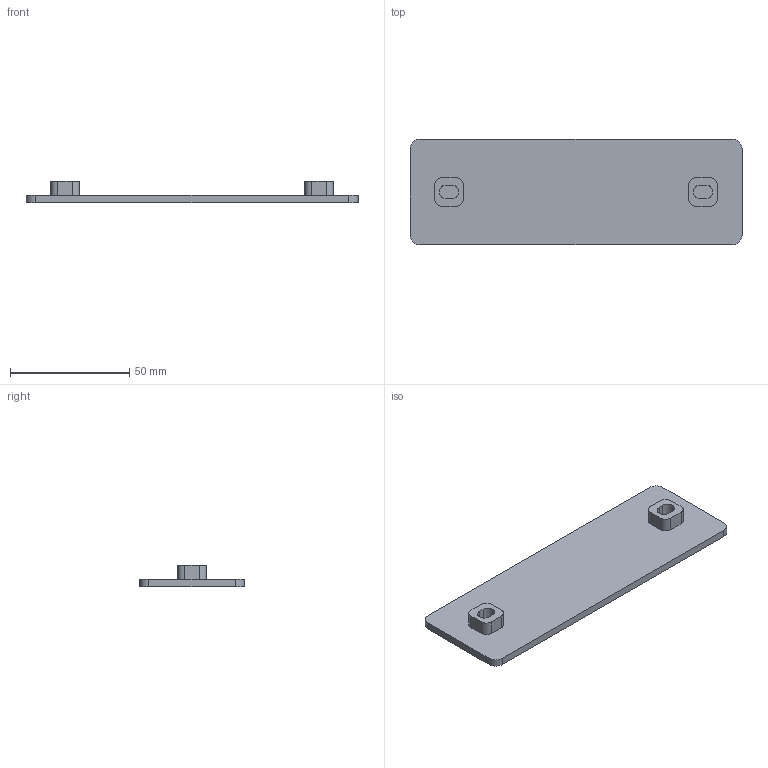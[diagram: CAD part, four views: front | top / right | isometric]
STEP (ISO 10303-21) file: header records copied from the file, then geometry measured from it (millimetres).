
FILE_DESCRIPTION(('Open CASCADE Model'),'2;1');
FILE_NAME('Open CASCADE Shape Model','2026-07-22T14:49:13',('Author'),( 'Open CASCADE'),'Open CASCADE STEP processor 7.9','Open CASCADE 7.9' ,'Unknown');
FILE_SCHEMA(('AUTOMOTIVE_DESIGN { 1 0 10303 214 1 1 1 1 }'));
Length unit declared in the file: millimetre
Products named in the file (1): Open CASCADE STEP translator 7.9 8
Bounding box: 139.16 x 44.1 x 9.2 mm (x, y, z)
Volume: 20720.3 mm3; surface area: 14205.6 mm2
Topology: 1 solids, 1 shells, 38 faces, 96 edges, 64 vertices
Faces by surface type: plane 22, cylinder 16
Entity records: 2426 total; most frequent: CARTESIAN_POINT 447, DIRECTION 382, LINE 216, VECTOR 216, ORIENTED_EDGE 192, PCURVE 192, DEFINITIONAL_REPRESENTATION 192, EDGE_CURVE 96
